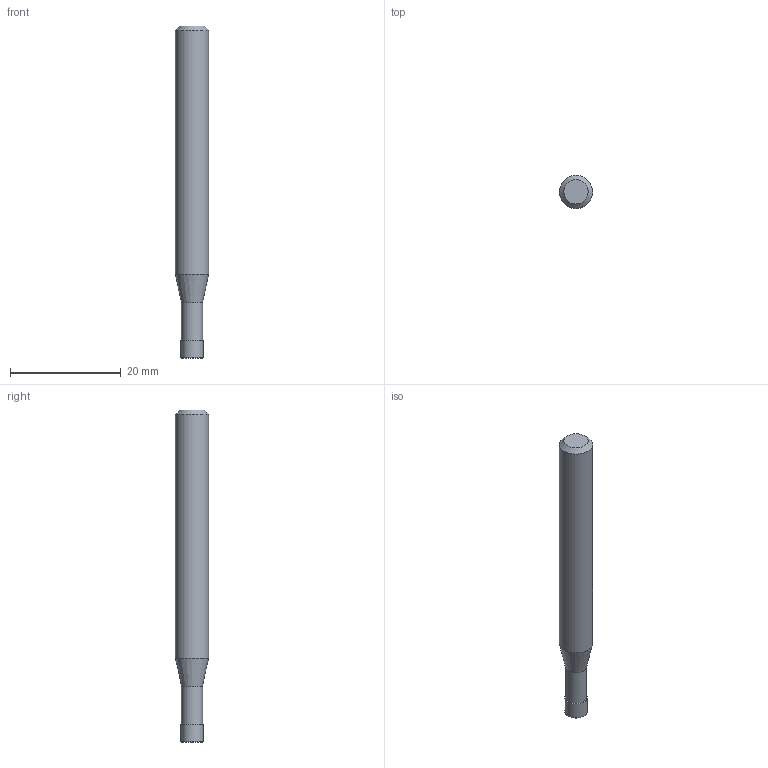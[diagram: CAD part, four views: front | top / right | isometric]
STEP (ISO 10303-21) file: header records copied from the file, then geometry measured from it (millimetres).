
FILE_DESCRIPTION((''),'2;1');
FILE_NAME('C:\Users\nsx150\AppData\Local\Temp\Mastercam 2021\CSMVKW3037\TEMP.step','2023-06-23T16:04:21',(''),(''),'STEP Write','Mastercam 2021 ... CNC Software, Inc.','');
FILE_SCHEMA(('AUTOMOTIVE_DESIGN'));
Length unit declared in the file: millimetre
Products named in the file (1): None
Bounding box: 6 x 6 x 60 mm (x, y, z)
Volume: 1478.4 mm3; surface area: 1102.3 mm2
Topology: 2 solids, 2 shells, 10 faces, 14 edges, 8 vertices
Faces by surface type: plane 4, cylinder 3, cone 2, torus 1
Full cylindrical faces by diameter (mm): 3.8 x1, 4 x1, 6 x1
Entity records: 232 total; most frequent: DIRECTION 40, CARTESIAN_POINT 28, AXIS2_PLACEMENT_3D 20, ORIENTED_EDGE 16, EDGE_LOOP 16, STYLED_ITEM 13, ADVANCED_FACE 10, FACE_BOUND 10
